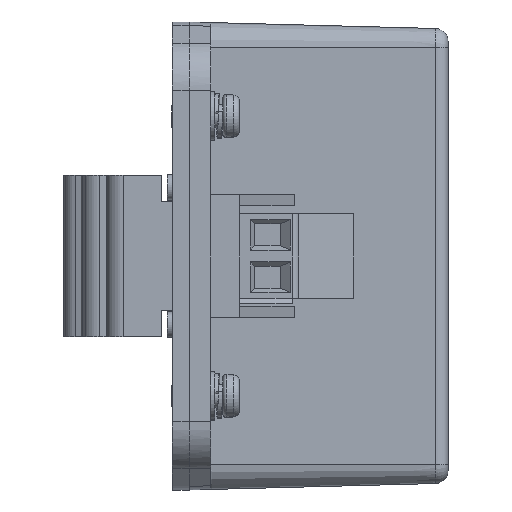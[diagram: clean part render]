
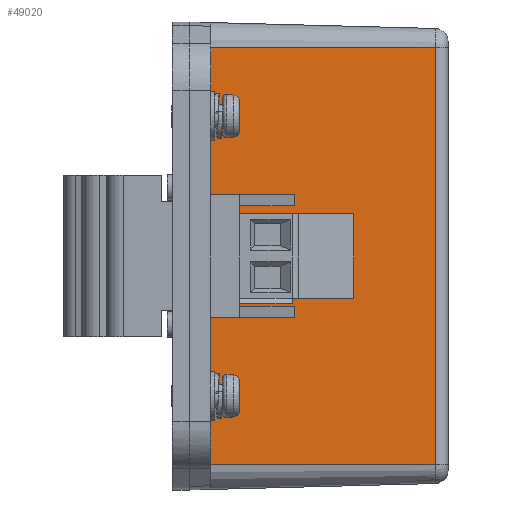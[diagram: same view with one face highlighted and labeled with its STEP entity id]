
A CAD part, left-side view. The second image highlights one B-rep face of the part: STEP entity #49020.
In plain terms, the highlighted planar face has unit normal (-1, -0.026, 0).
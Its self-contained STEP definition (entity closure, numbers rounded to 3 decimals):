
#117 = VERTEX_POINT ( 'NONE', #11659 ) ;
#1476 = EDGE_CURVE ( 'NONE', #34941, #47198, #53434, .T. ) ;
#1686 = LINE ( 'NONE', #21682, #9397 ) ;
#1776 = DIRECTION ( 'NONE',  ( -0.026, 1., 0. ) ) ;
#2334 = ORIENTED_EDGE ( 'NONE', *, *, #56280, .F. ) ;
#2537 = CARTESIAN_POINT ( 'NONE',  ( -46.808, 0.197, 134.38 ) ) ;
#2698 = DIRECTION ( 'NONE',  ( 0., 0., 1. ) ) ;
#2843 = CARTESIAN_POINT ( 'NONE',  ( -46.873, 2.697, 99.53 ) ) ;
#2870 = VECTOR ( 'NONE', #44363, 1000. ) ;
#3670 = CARTESIAN_POINT ( 'NONE',  ( -46.549, -9.68, 100.83 ) ) ;
#4426 = LINE ( 'NONE', #24414, #2870 ) ;
#4519 = VERTEX_POINT ( 'NONE', #62585 ) ;
#4646 = ORIENTED_EDGE ( 'NONE', *, *, #40412, .T. ) ;
#4684 = CARTESIAN_POINT ( 'NONE',  ( -46.808, 0.197, 131.38 ) ) ;
#5946 = VECTOR ( 'NONE', #33089, 1000. ) ;
#6603 = DIRECTION ( 'NONE',  ( 0., 0., 1. ) ) ;
#8373 = DIRECTION ( 'NONE',  ( -0.026, 1., 0. ) ) ;
#8604 = CARTESIAN_POINT ( 'NONE',  ( -46.873, 2.697, 131.38 ) ) ;
#9114 = ORIENTED_EDGE ( 'NONE', *, *, #58587, .T. ) ;
#9397 = VECTOR ( 'NONE', #41627, 1000. ) ;
#9978 = VERTEX_POINT ( 'NONE', #55337 ) ;
#10104 = AXIS2_PLACEMENT_3D ( 'NONE', #38381, #58316, #13486 ) ;
#11117 = DIRECTION ( 'NONE',  ( 0.026, -1., 0. ) ) ;
#11198 = CARTESIAN_POINT ( 'NONE',  ( -46.808, 0.197, 114.03 ) ) ;
#11659 = CARTESIAN_POINT ( 'NONE',  ( -46.549, -9.68, 100.83 ) ) ;
#11665 = DIRECTION ( 'NONE',  ( 0., 0., -1. ) ) ;
#12293 = LINE ( 'NONE', #32282, #19872 ) ;
#12444 = CARTESIAN_POINT ( 'NONE',  ( -46.719, -3.203, 112.73 ) ) ;
#12680 = ORIENTED_EDGE ( 'NONE', *, *, #16543, .T. ) ;
#12977 = VERTEX_POINT ( 'NONE', #14817 ) ;
#13091 = CARTESIAN_POINT ( 'NONE',  ( -46.113, -26.342, 134.38 ) ) ;
#13101 = EDGE_CURVE ( 'NONE', #9978, #43059, #60610, .T. ) ;
#13486 = DIRECTION ( 'NONE',  ( 0.026, -1., 0. ) ) ;
#13863 = VECTOR ( 'NONE', #6603, 1000. ) ;
#14148 = VECTOR ( 'NONE', #23665, 1000. ) ;
#14817 = CARTESIAN_POINT ( 'NONE',  ( -46.719, -3.203, 100.83 ) ) ;
#15284 = EDGE_CURVE ( 'NONE', #18239, #54277, #26689, .T. ) ;
#15703 = CARTESIAN_POINT ( 'NONE',  ( -46.549, -9.68, 114.03 ) ) ;
#15751 = VERTEX_POINT ( 'NONE', #15703 ) ;
#15783 = CARTESIAN_POINT ( 'NONE',  ( -46.873, 2.697, 82.18 ) ) ;
#16543 = EDGE_CURVE ( 'NONE', #43059, #34941, #57919, .T. ) ;
#18239 = VERTEX_POINT ( 'NONE', #49043 ) ;
#18423 = PLANE ( 'NONE',  #10104 ) ;
#18574 = ORIENTED_EDGE ( 'NONE', *, *, #1476, .T. ) ;
#18640 = VERTEX_POINT ( 'NONE', #55727 ) ;
#19872 = VECTOR ( 'NONE', #52217, 1000. ) ;
#20308 = VECTOR ( 'NONE', #22832, 1000. ) ;
#21682 = CARTESIAN_POINT ( 'NONE',  ( -46.719, -3.203, 100.83 ) ) ;
#22372 = EDGE_CURVE ( 'NONE', #18239, #15751, #27612, .T. ) ;
#22503 = CARTESIAN_POINT ( 'NONE',  ( -46.113, -26.342, 131.38 ) ) ;
#22512 = DIRECTION ( 'NONE',  ( 0., 0., -1. ) ) ;
#22832 = DIRECTION ( 'NONE',  ( 0.026, -1., 0. ) ) ;
#22968 = VECTOR ( 'NONE', #11665, 1000. ) ;
#23515 = CARTESIAN_POINT ( 'NONE',  ( -46.113, -26.342, 82.18 ) ) ;
#23665 = DIRECTION ( 'NONE',  ( -0.026, 1., 0. ) ) ;
#23822 = EDGE_CURVE ( 'NONE', #4519, #117, #31497, .T. ) ;
#24414 = CARTESIAN_POINT ( 'NONE',  ( -46.873, 2.697, 113.03 ) ) ;
#25919 = EDGE_CURVE ( 'NONE', #18640, #31853, #36009, .T. ) ;
#26689 = LINE ( 'NONE', #46629, #45570 ) ;
#26880 = ORIENTED_EDGE ( 'NONE', *, *, #58238, .T. ) ;
#27079 = ORIENTED_EDGE ( 'NONE', *, *, #22372, .F. ) ;
#27612 = LINE ( 'NONE', #47542, #59401 ) ;
#28587 = DIRECTION ( 'NONE',  ( -0.026, 1., 0. ) ) ;
#28709 = VECTOR ( 'NONE', #28587, 1000. ) ;
#30923 = VECTOR ( 'NONE', #8373, 1000. ) ;
#30960 = CARTESIAN_POINT ( 'NONE',  ( -46.719, -3.203, 113.03 ) ) ;
#31131 = ORIENTED_EDGE ( 'NONE', *, *, #32496, .F. ) ;
#31497 = LINE ( 'NONE', #51447, #13863 ) ;
#31853 = VERTEX_POINT ( 'NONE', #35040 ) ;
#32282 = CARTESIAN_POINT ( 'NONE',  ( -46.808, 0.197, 134.38 ) ) ;
#32441 = DIRECTION ( 'NONE',  ( 0., 0., 1. ) ) ;
#32496 = EDGE_CURVE ( 'NONE', #117, #12977, #48531, .T. ) ;
#33089 = DIRECTION ( 'NONE',  ( 0., 0., 1. ) ) ;
#33270 = LINE ( 'NONE', #53208, #30923 ) ;
#33896 = ORIENTED_EDGE ( 'NONE', *, *, #13101, .T. ) ;
#34941 = VERTEX_POINT ( 'NONE', #22503 ) ;
#35004 = EDGE_CURVE ( 'NONE', #57573, #4519, #47689, .T. ) ;
#35040 = CARTESIAN_POINT ( 'NONE',  ( -46.719, -3.203, 100.53 ) ) ;
#35753 = DIRECTION ( 'NONE',  ( 0.026, -1., 0. ) ) ;
#36009 = LINE ( 'NONE', #55928, #62979 ) ;
#36545 = LINE ( 'NONE', #56476, #22968 ) ;
#38381 = CARTESIAN_POINT ( 'NONE',  ( -46.873, 2.697, 134.38 ) ) ;
#40412 = EDGE_CURVE ( 'NONE', #61867, #58387, #4426, .T. ) ;
#41627 = DIRECTION ( 'NONE',  ( 0., 0., -1. ) ) ;
#42613 = VERTEX_POINT ( 'NONE', #11198 ) ;
#43059 = VERTEX_POINT ( 'NONE', #23515 ) ;
#43483 = ORIENTED_EDGE ( 'NONE', *, *, #49340, .T. ) ;
#43827 = VECTOR ( 'NONE', #22512, 1000. ) ;
#44359 = ORIENTED_EDGE ( 'NONE', *, *, #25919, .T. ) ;
#44363 = DIRECTION ( 'NONE',  ( -0.026, 1., 0. ) ) ;
#45570 = VECTOR ( 'NONE', #1776, 1000. ) ;
#46629 = CARTESIAN_POINT ( 'NONE',  ( -46.549, -9.68, 112.73 ) ) ;
#47197 = ORIENTED_EDGE ( 'NONE', *, *, #23822, .F. ) ;
#47198 = VERTEX_POINT ( 'NONE', #4684 ) ;
#47380 = LINE ( 'NONE', #2537, #43827 ) ;
#47542 = CARTESIAN_POINT ( 'NONE',  ( -46.549, -9.68, 134.38 ) ) ;
#47689 = LINE ( 'NONE', #2843, #20308 ) ;
#48531 = LINE ( 'NONE', #3670, #14148 ) ;
#49020 = ADVANCED_FACE ( 'NONE', ( #63232 ), #18423, .T. ) ;
#49043 = CARTESIAN_POINT ( 'NONE',  ( -46.549, -9.68, 112.73 ) ) ;
#49340 = EDGE_CURVE ( 'NONE', #54277, #61867, #57258, .T. ) ;
#50291 = CARTESIAN_POINT ( 'NONE',  ( -46.721, -3.103, 113.03 ) ) ;
#50708 = ORIENTED_EDGE ( 'NONE', *, *, #58464, .T. ) ;
#50864 = VECTOR ( 'NONE', #32441, 1000. ) ;
#51304 = ORIENTED_EDGE ( 'NONE', *, *, #52787, .F. ) ;
#51306 = EDGE_LOOP ( 'NONE', ( #27079, #55266, #43483, #4646, #50708, #44359, #2334, #31131, #47197, #62020, #26880, #33896, #12680, #18574, #9114, #51304 ) ) ;
#51447 = CARTESIAN_POINT ( 'NONE',  ( -46.549, -9.68, 134.38 ) ) ;
#52217 = DIRECTION ( 'NONE',  ( 0., 0., -1. ) ) ;
#52787 = EDGE_CURVE ( 'NONE', #15751, #42613, #33270, .T. ) ;
#53208 = CARTESIAN_POINT ( 'NONE',  ( -46.873, 2.697, 114.03 ) ) ;
#53434 = LINE ( 'NONE', #8604, #28709 ) ;
#53490 = CARTESIAN_POINT ( 'NONE',  ( -46.808, 0.197, 99.53 ) ) ;
#54132 = CARTESIAN_POINT ( 'NONE',  ( -46.719, -3.203, 112.73 ) ) ;
#54277 = VERTEX_POINT ( 'NONE', #54132 ) ;
#54351 = VECTOR ( 'NONE', #35753, 1000. ) ;
#55266 = ORIENTED_EDGE ( 'NONE', *, *, #15284, .T. ) ;
#55337 = CARTESIAN_POINT ( 'NONE',  ( -46.808, 0.197, 82.18 ) ) ;
#55727 = CARTESIAN_POINT ( 'NONE',  ( -46.721, -3.103, 100.53 ) ) ;
#55928 = CARTESIAN_POINT ( 'NONE',  ( -46.873, 2.697, 100.53 ) ) ;
#56280 = EDGE_CURVE ( 'NONE', #12977, #31853, #1686, .T. ) ;
#56476 = CARTESIAN_POINT ( 'NONE',  ( -46.721, -3.103, 134.38 ) ) ;
#57258 = LINE ( 'NONE', #12444, #50864 ) ;
#57573 = VERTEX_POINT ( 'NONE', #53490 ) ;
#57919 = LINE ( 'NONE', #13091, #5946 ) ;
#58238 = EDGE_CURVE ( 'NONE', #57573, #9978, #47380, .T. ) ;
#58316 = DIRECTION ( 'NONE',  ( -1., -0.026, 0. ) ) ;
#58387 = VERTEX_POINT ( 'NONE', #50291 ) ;
#58464 = EDGE_CURVE ( 'NONE', #58387, #18640, #36545, .T. ) ;
#58587 = EDGE_CURVE ( 'NONE', #47198, #42613, #12293, .T. ) ;
#59401 = VECTOR ( 'NONE', #2698, 1000. ) ;
#60610 = LINE ( 'NONE', #15783, #54351 ) ;
#61867 = VERTEX_POINT ( 'NONE', #30960 ) ;
#62020 = ORIENTED_EDGE ( 'NONE', *, *, #35004, .F. ) ;
#62585 = CARTESIAN_POINT ( 'NONE',  ( -46.549, -9.68, 99.53 ) ) ;
#62979 = VECTOR ( 'NONE', #11117, 1000. ) ;
#63232 = FACE_OUTER_BOUND ( 'NONE', #51306, .T. ) ;
